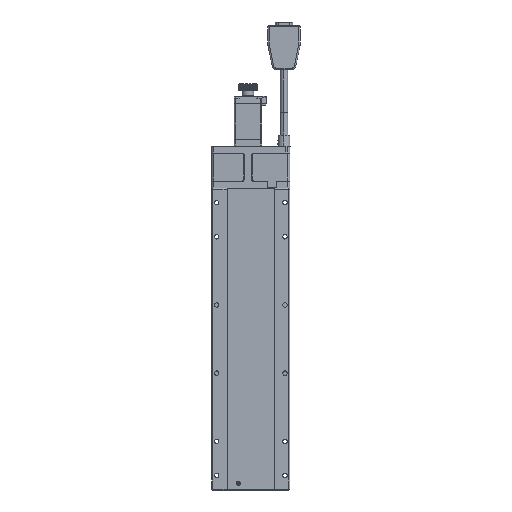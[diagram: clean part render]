
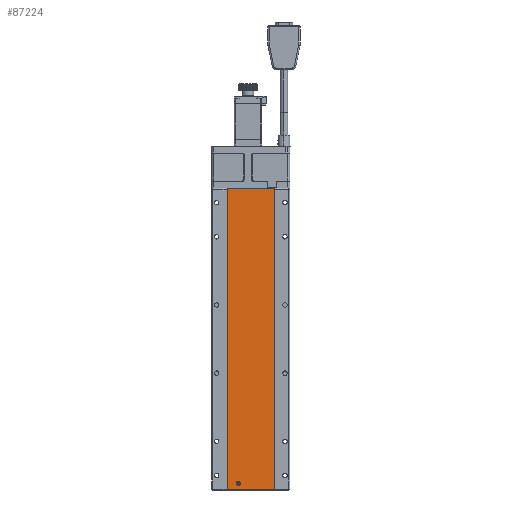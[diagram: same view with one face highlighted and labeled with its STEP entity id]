
A CAD part, front view. The second image highlights one B-rep face of the part: STEP entity #87224.
In plain terms, the highlighted planar face has unit normal (0, -1, 0).
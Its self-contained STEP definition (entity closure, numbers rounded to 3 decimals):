
#278 = ORIENTED_EDGE ( 'NONE', *, *, #29603, .T. ) ;
#8749 = ORIENTED_EDGE ( 'NONE', *, *, #128198, .T. ) ;
#12641 = VECTOR ( 'NONE', #107258, 1000. ) ;
#16701 = CARTESIAN_POINT ( 'NONE',  ( -24.3, 0.5, 309.8 ) ) ;
#25133 = CARTESIAN_POINT ( 'NONE',  ( 24.3, 0.5, 0.2 ) ) ;
#28455 = EDGE_CURVE ( 'NONE', #108346, #95958, #71844, .T. ) ;
#29603 = EDGE_CURVE ( 'NONE', #95958, #156396, #140884, .T. ) ;
#32555 = EDGE_LOOP ( 'NONE', ( #60935, #8749, #80419, #278 ) ) ;
#36388 = DIRECTION ( 'NONE',  ( -1., 0., 0. ) ) ;
#43839 = CARTESIAN_POINT ( 'NONE',  ( 24.3, 0.5, 309.8 ) ) ;
#48265 = EDGE_CURVE ( 'NONE', #156396, #136259, #134119, .T. ) ;
#50528 = VECTOR ( 'NONE', #97812, 1000. ) ;
#60935 = ORIENTED_EDGE ( 'NONE', *, *, #48265, .T. ) ;
#64828 = DIRECTION ( 'NONE',  ( 0., 1., 0. ) ) ;
#71844 = LINE ( 'NONE', #161238, #12641 ) ;
#80419 = ORIENTED_EDGE ( 'NONE', *, *, #28455, .T. ) ;
#83568 = CARTESIAN_POINT ( 'NONE',  ( -24.3, 0.5, 0.2 ) ) ;
#87224 = ADVANCED_FACE ( 'NONE', ( #142360 ), #132171, .F. ) ;
#95958 = VERTEX_POINT ( 'NONE', #43839 ) ;
#97812 = DIRECTION ( 'NONE',  ( 0., 0., -1. ) ) ;
#103511 = DIRECTION ( 'NONE',  ( -1., 0., 0. ) ) ;
#107258 = DIRECTION ( 'NONE',  ( 0., 0., 1. ) ) ;
#108346 = VERTEX_POINT ( 'NONE', #25133 ) ;
#113897 = CARTESIAN_POINT ( 'NONE',  ( -24.3, 0.5, 309.8 ) ) ;
#113943 = CARTESIAN_POINT ( 'NONE',  ( -24.3, 0.5, 0.2 ) ) ;
#118955 = LINE ( 'NONE', #156138, #148264 ) ;
#125849 = VECTOR ( 'NONE', #36388, 1000. ) ;
#128198 = EDGE_CURVE ( 'NONE', #136259, #108346, #118955, .T. ) ;
#132171 = PLANE ( 'NONE',  #139751 ) ;
#133989 = CARTESIAN_POINT ( 'NONE',  ( -24.3, 0.5, 309.8 ) ) ;
#134119 = LINE ( 'NONE', #83568, #50528 ) ;
#136259 = VERTEX_POINT ( 'NONE', #113943 ) ;
#139751 = AXIS2_PLACEMENT_3D ( 'NONE', #16701, #64828, #103511 ) ;
#140884 = LINE ( 'NONE', #113897, #125849 ) ;
#142360 = FACE_OUTER_BOUND ( 'NONE', #32555, .T. ) ;
#148264 = VECTOR ( 'NONE', #155276, 1000. ) ;
#155276 = DIRECTION ( 'NONE',  ( 1., 0., 0. ) ) ;
#156138 = CARTESIAN_POINT ( 'NONE',  ( -24.3, 0.5, 0.2 ) ) ;
#156396 = VERTEX_POINT ( 'NONE', #133989 ) ;
#161238 = CARTESIAN_POINT ( 'NONE',  ( 24.3, 0.5, 0.2 ) ) ;
